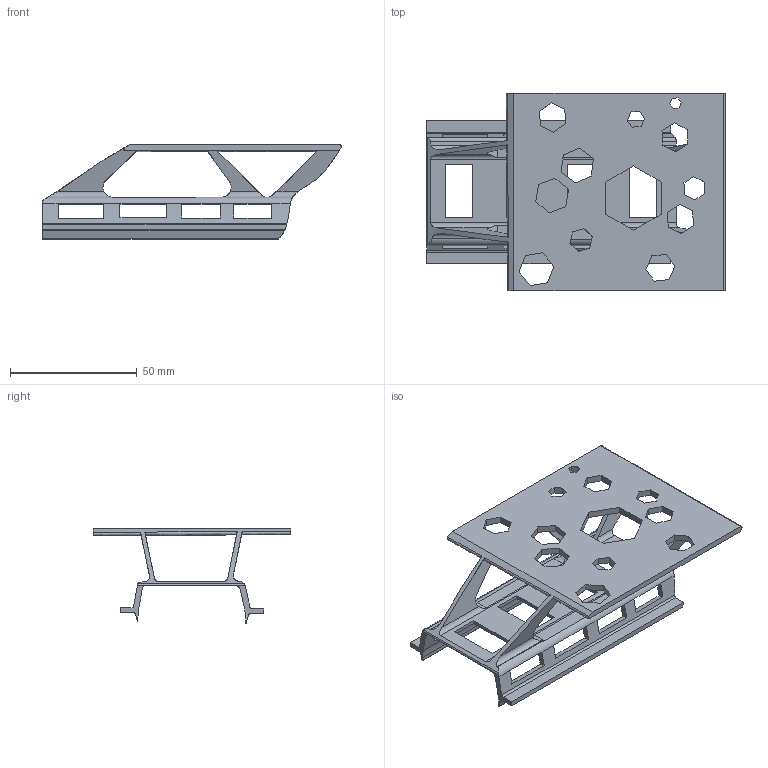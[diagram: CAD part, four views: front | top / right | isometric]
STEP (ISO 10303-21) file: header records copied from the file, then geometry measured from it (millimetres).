
FILE_DESCRIPTION(/* description */ (''),/* implementation_level */ '2;1');
FILE_NAME(/* name */ '支撑架.stp',/* time_stamp */ '2021-03-21T20:46:56+08:00',/* author */ (''),/* organization */ (''),/* preprocessor_version */ 'ST-DEVELOPER v16',/* originating_system */ 'SIEMENS PLM Software NX 10.0',/* authorisation */ '');
FILE_SCHEMA (('CONFIG_CONTROL_DESIGN'));
Length unit declared in the file: millimetre
Products named in the file (1): _model4
Bounding box: 117.95 x 78.1 x 37.28 mm (x, y, z)
Volume: 25887.1 mm3; surface area: 28801 mm2
Topology: 1 solids, 1 shells, 204 faces, 651 edges, 430 vertices
Faces by surface type: plane 169, cylinder 30, bspline 3, extrusion 2
Entity records: 7942 total; most frequent: CARTESIAN_POINT 2141, ORIENTED_EDGE 1302, DIRECTION 1018, EDGE_CURVE 651, VECTOR 518, LINE 516, VERTEX_POINT 430, AXIS2_PLACEMENT_3D 250
